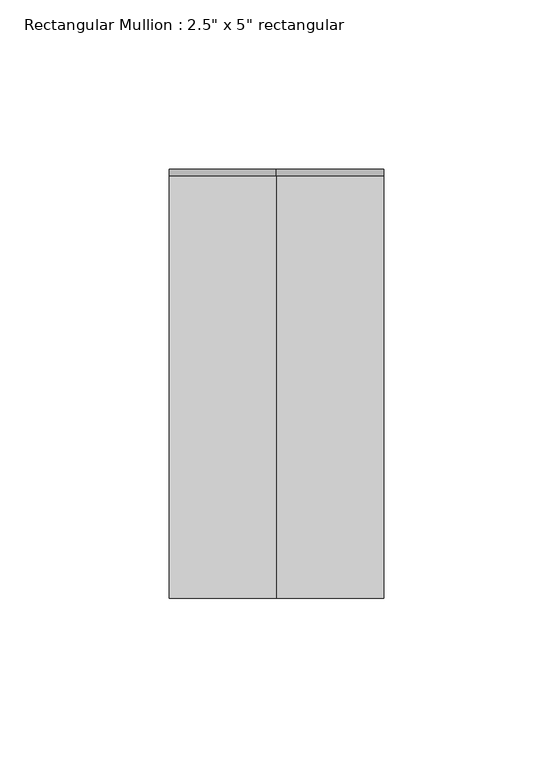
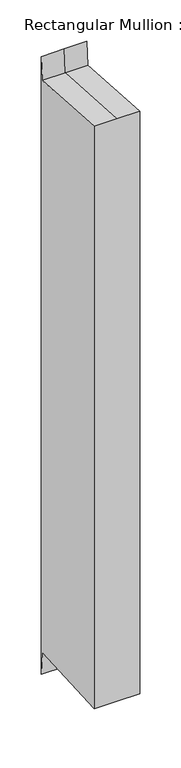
"""IFC4 building model written with IfcOpenShell, lengths in millimetres: member geometry."""

from ifc_helpers import new_model, si_unit, origin, place, context, project, spatial, faceted_brep, source, transform, mapped, element, save


def member_d702d02f(model_context):
    return source(origin(), model_context, "Body", "Brep", [
        faceted_brep([(-31.75, 63.5, 29.7846233), (0.0, 63.5, 29.7846233), (31.75, 63.5, 29.7846233), (31.75, 63.5, -880.6846233), (0.0, 63.5, -880.6846233), (-31.75, 63.5, -880.6846233), (-31.75, -63.5, 3.8736342), (-31.75, 61.4149606, -3.8662198), (-31.75, 61.4149606, -847.0337802), (-31.75, -63.5, -854.7736342), (31.75, -63.5, 3.8736342), (0.0, -63.5, 3.8736342), (0.0, -63.5, -854.7736342), (31.75, -63.5, -854.7736342), (31.75, 61.4149606, -3.8662198), (31.75, 61.4149606, -847.0337802), (0.0, 61.4149606, -3.8662198), (0.0, 61.4149606, -847.0337802)], [[[0, 1, 2, 3, 4, 5]], [[6, 7, 0, 5, 8, 9]], [[10, 11, 6, 9, 12, 13]], [[2, 14, 10, 13, 15, 3]], [[2, 1, 16, 14]], [[1, 0, 7, 16]], [[7, 6, 11, 16]], [[11, 10, 14, 16]], [[3, 15, 17, 4]], [[15, 13, 12, 17]], [[12, 9, 8, 17]], [[8, 5, 4, 17]]]),
    ])


if __name__ == "__main__":
    model = new_model("IFC4")
    model_context = context("Model", 3, world=origin())
    ifc_project = project(units=[si_unit("LENGTHUNIT", "METRE", prefix="MILLI")], contexts=[model_context])
    site = spatial("IfcSite", under=ifc_project)
    building = spatial("IfcBuilding", under=site)
    placement = place(None, origin())
    member_shape = member_d702d02f(model_context)
    element("IfcMember", 1, ObjectType="Rectangular Mullion : 2.5\" x 5\" rectangular", at=placement, inside=building, context=model_context, shape_type="MappedRepresentation", body=[
        mapped(member_shape, transform((0.0, 0.0, 0.0), x_axis=(1.0, 0.0, 0.0), y_axis=(0.0, 1.0, 0.0), z_axis=(0.0, 0.0, 1.0))),
    ])
    save(model, "model.ifc")
